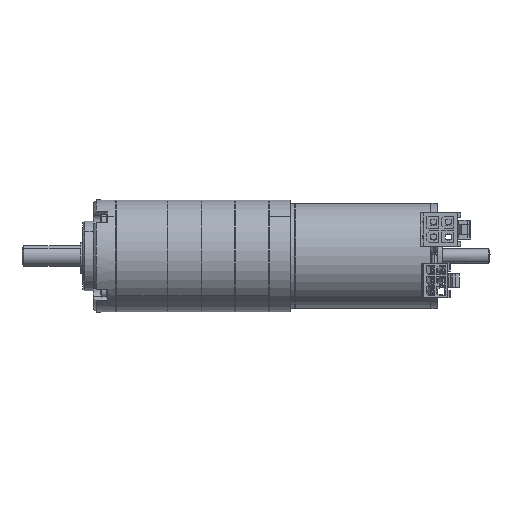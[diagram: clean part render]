
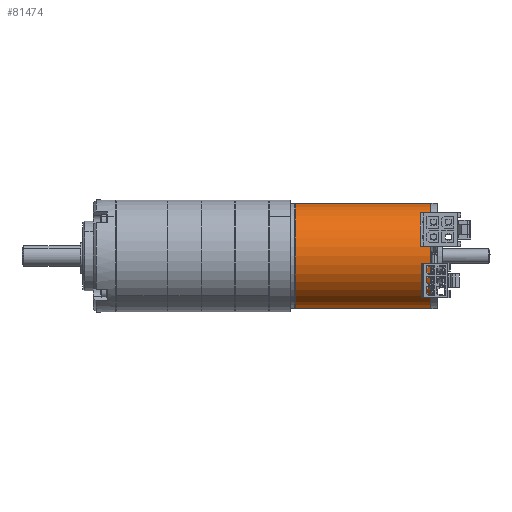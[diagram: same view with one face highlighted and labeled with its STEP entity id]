
A CAD part, front view. The second image highlights one B-rep face of the part: STEP entity #81474.
In plain terms, the highlighted cylindrical face has radius 15 mm (diameter 30 mm), a partial arc.
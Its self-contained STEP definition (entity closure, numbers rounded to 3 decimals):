
#599 = ORIENTED_EDGE ( 'NONE', *, *, #47715, .T. ) ;
#1164 = CARTESIAN_POINT ( 'NONE',  ( 60.85, 0., 0. ) ) ;
#1740 = VECTOR ( 'NONE', #63593, 1000. ) ;
#1894 = LINE ( 'NONE', #80407, #56345 ) ;
#2201 = VERTEX_POINT ( 'NONE', #4759 ) ;
#2811 = CARTESIAN_POINT ( 'NONE',  ( 40., 0., -15. ) ) ;
#2901 = DIRECTION ( 'NONE',  ( -1., 0., 0. ) ) ;
#4759 = CARTESIAN_POINT ( 'NONE',  ( 40., 0., 15. ) ) ;
#5070 = ORIENTED_EDGE ( 'NONE', *, *, #78404, .F. ) ;
#5345 = AXIS2_PLACEMENT_3D ( 'NONE', #1164, #65955, #76582 ) ;
#11931 = EDGE_LOOP ( 'NONE', ( #5070, #13505, #599, #79879 ) ) ;
#13505 = ORIENTED_EDGE ( 'NONE', *, *, #16998, .T. ) ;
#13987 = CARTESIAN_POINT ( 'NONE',  ( 1.409, 0., 15. ) ) ;
#15556 = CARTESIAN_POINT ( 'NONE',  ( 1.409, 0., -15. ) ) ;
#16998 = EDGE_CURVE ( 'NONE', #71163, #2201, #54421, .T. ) ;
#17093 = DIRECTION ( 'NONE',  ( -1., 0., 0. ) ) ;
#17662 = CARTESIAN_POINT ( 'NONE',  ( 40., 0., 0. ) ) ;
#29766 = CARTESIAN_POINT ( 'NONE',  ( 60.85, 0., 15. ) ) ;
#30315 = DIRECTION ( 'NONE',  ( 0., 0., 1. ) ) ;
#34705 = DIRECTION ( 'NONE',  ( 0., 0., 1. ) ) ;
#36071 = LINE ( 'NONE', #29766, #1740 ) ;
#44009 = VERTEX_POINT ( 'NONE', #13987 ) ;
#47612 = VERTEX_POINT ( 'NONE', #15556 ) ;
#47715 = EDGE_CURVE ( 'NONE', #2201, #44009, #36071, .T. ) ;
#50166 = CYLINDRICAL_SURFACE ( 'NONE', #5345, 15. ) ;
#54421 = CIRCLE ( 'NONE', #64488, 15. ) ;
#56345 = VECTOR ( 'NONE', #2901, 1000. ) ;
#59532 = EDGE_CURVE ( 'NONE', #44009, #47612, #70028, .T. ) ;
#61411 = DIRECTION ( 'NONE',  ( 1., 0., 0. ) ) ;
#63593 = DIRECTION ( 'NONE',  ( -1., 0., 0. ) ) ;
#64488 = AXIS2_PLACEMENT_3D ( 'NONE', #17662, #17093, #30315 ) ;
#65955 = DIRECTION ( 'NONE',  ( -1., 0., 0. ) ) ;
#70028 = CIRCLE ( 'NONE', #75835, 15. ) ;
#71163 = VERTEX_POINT ( 'NONE', #2811 ) ;
#75835 = AXIS2_PLACEMENT_3D ( 'NONE', #80600, #61411, #34705 ) ;
#76582 = DIRECTION ( 'NONE',  ( 0., 0., 1. ) ) ;
#78404 = EDGE_CURVE ( 'NONE', #71163, #47612, #1894, .T. ) ;
#79879 = ORIENTED_EDGE ( 'NONE', *, *, #59532, .T. ) ;
#80368 = FACE_OUTER_BOUND ( 'NONE', #11931, .T. ) ;
#80407 = CARTESIAN_POINT ( 'NONE',  ( 60.85, 0., -15. ) ) ;
#80600 = CARTESIAN_POINT ( 'NONE',  ( 1.409, 0., 0. ) ) ;
#81474 = ADVANCED_FACE ( 'NONE', ( #80368 ), #50166, .T. ) ;
